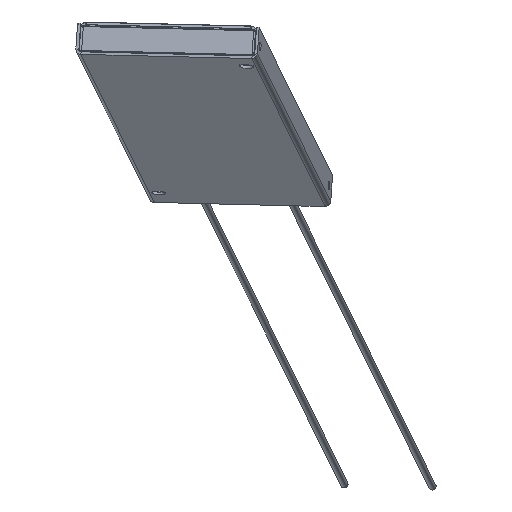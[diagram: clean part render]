
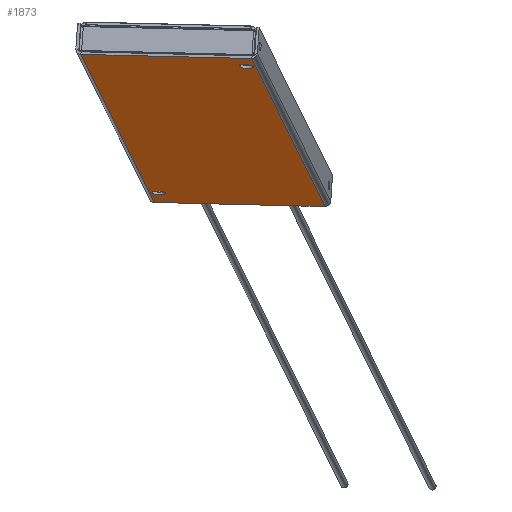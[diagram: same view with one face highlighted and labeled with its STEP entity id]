
A CAD part, left-side view. The second image highlights one B-rep face of the part: STEP entity #1873.
In plain terms, the highlighted planar face has unit normal (-0.27, 0.064, -0.961).
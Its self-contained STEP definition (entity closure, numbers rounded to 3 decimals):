
#101=LINE($,#2910,#261);
#103=LINE($,#2913,#263);
#119=LINE($,#2947,#279);
#120=LINE($,#2949,#280);
#261=VECTOR($,#2379,198.);
#263=VECTOR($,#2383,64.);
#279=VECTOR($,#2417,198.);
#280=VECTOR($,#2420,64.);
#382=PLANE($,#2033);
#447=FACE_BOUND($,#651,.T.);
#448=FACE_BOUND($,#652,.T.);
#449=FACE_BOUND($,#653,.T.);
#651=EDGE_LOOP($,(#1435));
#652=EDGE_LOOP($,(#1436));
#653=EDGE_LOOP($,(#1437,#1438,#1439,#1440));
#753=CIRCLE($,#2005,2.5);
#755=CIRCLE($,#2008,2.5);
#848=VERTEX_POINT($,#2799);
#873=VERTEX_POINT($,#2863);
#875=VERTEX_POINT($,#2868);
#885=VERTEX_POINT($,#2895);
#886=VERTEX_POINT($,#2899);
#895=VERTEX_POINT($,#2937);
#1047=EDGE_CURVE($,#873,#873,#753,.T.);
#1049=EDGE_CURVE($,#875,#875,#755,.T.);
#1069=EDGE_CURVE($,#885,#886,#101,.T.);
#1071=EDGE_CURVE($,#848,#886,#103,.T.);
#1090=EDGE_CURVE($,#848,#895,#119,.T.);
#1091=EDGE_CURVE($,#885,#895,#120,.T.);
#1435=ORIENTED_EDGE($,*,*,#1047,.T.);
#1436=ORIENTED_EDGE($,*,*,#1049,.T.);
#1437=ORIENTED_EDGE($,*,*,#1069,.T.);
#1438=ORIENTED_EDGE($,*,*,#1071,.F.);
#1439=ORIENTED_EDGE($,*,*,#1090,.T.);
#1440=ORIENTED_EDGE($,*,*,#1091,.F.);
#1873=ADVANCED_FACE($,(#447,#448,#449),#382,.T.);
#2005=AXIS2_PLACEMENT_3D($,#2864,#2330,#2331);
#2008=AXIS2_PLACEMENT_3D($,#2869,#2336,#2337);
#2033=AXIS2_PLACEMENT_3D($,#2950,#2421,#2422);
#2330=DIRECTION('center_axis',(0.27,-0.064,0.961));
#2331=DIRECTION('ref_axis',(-0.951,0.137,0.277));
#2336=DIRECTION('center_axis',(0.27,-0.064,0.961));
#2337=DIRECTION('ref_axis',(-0.951,0.137,0.277));
#2379=DIRECTION($,(-0.951,0.137,0.277));
#2383=DIRECTION($,(-0.149,-0.988,-0.024));
#2417=DIRECTION($,(0.951,-0.137,-0.277));
#2420=DIRECTION($,(0.149,0.988,0.024));
#2421=DIRECTION('center_axis',(-0.27,0.064,-0.961));
#2422=DIRECTION('ref_axis',(-0.951,0.137,0.277));
#2799=CARTESIAN_POINT('',(-162.187,16.908,-27.831));
#2863=CARTESIAN_POINT('',(10.864,-11.578,-78.431));
#2864=CARTESIAN_POINT('Origin',(13.242,-11.921,-79.123));
#2868=CARTESIAN_POINT('',(-163.146,-44.06,-31.63));
#2869=CARTESIAN_POINT('Origin',(-160.768,-44.403,-32.322));
#2895=CARTESIAN_POINT('',(16.563,-73.506,-84.166));
#2899=CARTESIAN_POINT('',(-171.753,-46.354,-29.361));
#2910=CARTESIAN_POINT($,(-124.674,-53.142,-43.062));
#2913=CARTESIAN_POINT($,(-161.888,18.885,-27.784));
#2937=CARTESIAN_POINT('',(26.129,-10.244,-82.637));
#2947=CARTESIAN_POINT($,(-20.95,-3.456,-68.936));
#2949=CARTESIAN_POINT($,(16.264,-75.483,-84.214));
#2950=CARTESIAN_POINT('Origin',(-72.812,-28.299,-55.999));
